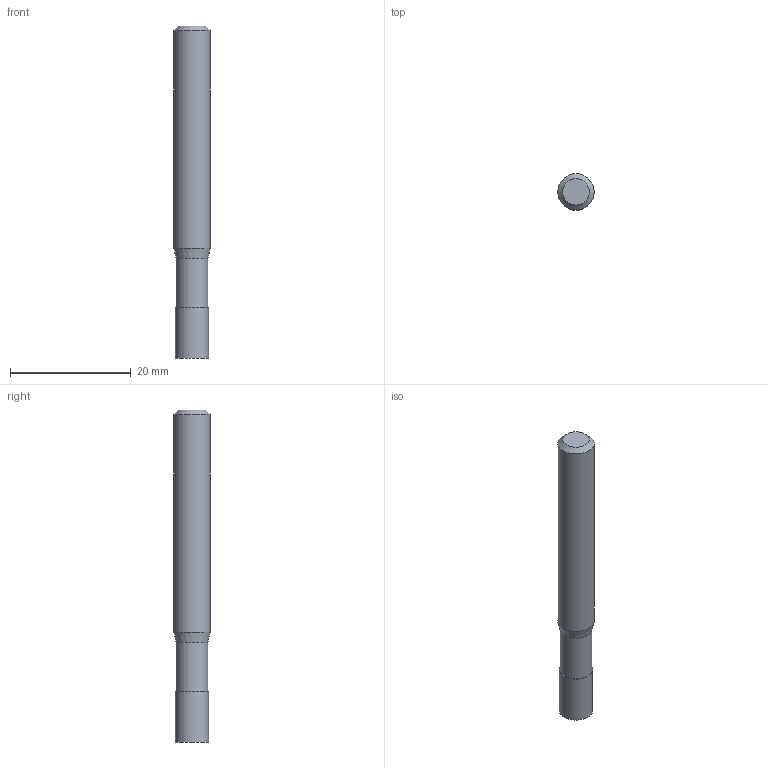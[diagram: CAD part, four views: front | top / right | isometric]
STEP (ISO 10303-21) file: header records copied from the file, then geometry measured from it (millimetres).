
FILE_DESCRIPTION((''),'2;1');
FILE_NAME('C:\Users\nsx150\AppData\Local\Temp\Mastercam 2021\EUJSUNXURU\TEMP.step','2021-04-22T10:28:40',(''),(''),'STEP Write','Mastercam 2021 ... CNC Software, Inc.','');
FILE_SCHEMA(('AUTOMOTIVE_DESIGN'));
Length unit declared in the file: millimetre
Products named in the file (1): None
Bounding box: 6 x 6 x 55 mm (x, y, z)
Volume: 1455.9 mm3; surface area: 1092.7 mm2
Topology: 2 solids, 2 shells, 9 faces, 12 edges, 7 vertices
Faces by surface type: plane 4, cylinder 3, cone 2
Full cylindrical faces by diameter (mm): 5.3 x1, 5.5 x1, 6 x1
Entity records: 211 total; most frequent: DIRECTION 36, CARTESIAN_POINT 25, AXIS2_PLACEMENT_3D 18, ORIENTED_EDGE 14, EDGE_LOOP 14, STYLED_ITEM 12, ADVANCED_FACE 9, FACE_BOUND 8
